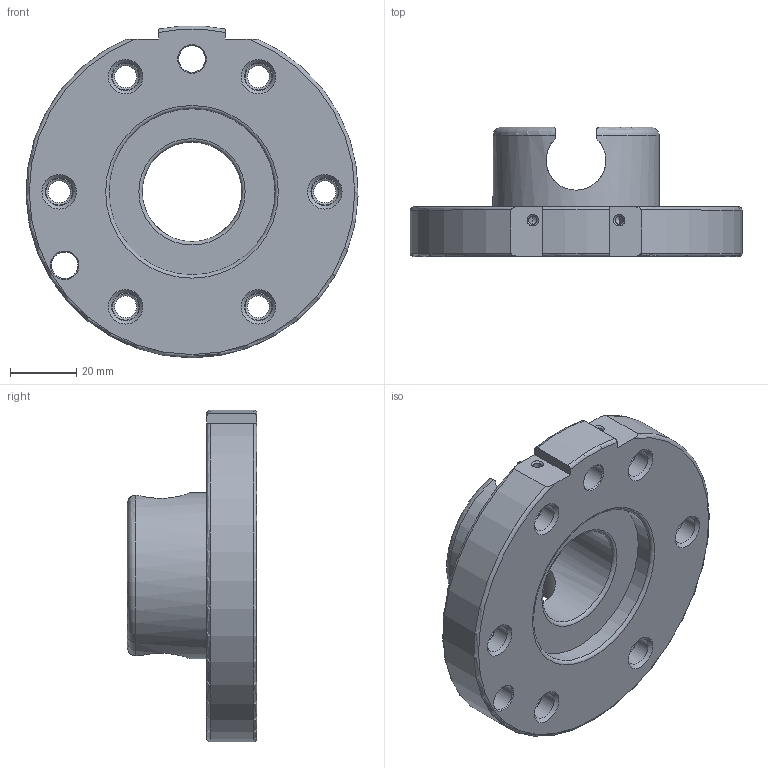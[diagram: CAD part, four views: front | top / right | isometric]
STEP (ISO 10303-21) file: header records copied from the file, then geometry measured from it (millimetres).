
FILE_DESCRIPTION(/* description */ (''),/* implementation_level */ '2;1');
FILE_NAME(/* name */ 'G-SHW100-2UE-M8.stp',/* time_stamp */ '2024-07-08T15:04:22+02:00',/* author */ ('ysplieth'),/* organization */ (''),/* preprocessor_version */ 'ST-DEVELOPER v20',/* originating_system */ 'Autodesk Inventor 2024',/* authorisation */ '');
FILE_SCHEMA (('AUTOMOTIVE_DESIGN { 1 0 10303 214 3 1 1 }'));
Length unit declared in the file: millimetre
Products named in the file (1): Bauteil2
Bounding box: 99.95 x 39 x 99.89 mm (x, y, z)
Volume: 114388.9 mm3; surface area: 32371.6 mm2
Topology: 1 solids, 1 shells, 154 faces, 509 edges, 334 vertices
Faces by surface type: plane 71, cone 44, cylinder 29, torus 10
Full cylindrical faces by diameter (mm): 2.459 x2, 6.647 x6, 8 x2, 8.376 x6, 15 x6, 30 x1, 50 x2
Entity records: 6300 total; most frequent: CARTESIAN_POINT 1527, ORIENTED_EDGE 1018, DIRECTION 939, EDGE_CURVE 509, AXIS2_PLACEMENT_3D 380, VERTEX_POINT 334, CIRCLE 225, EDGE_LOOP 225
